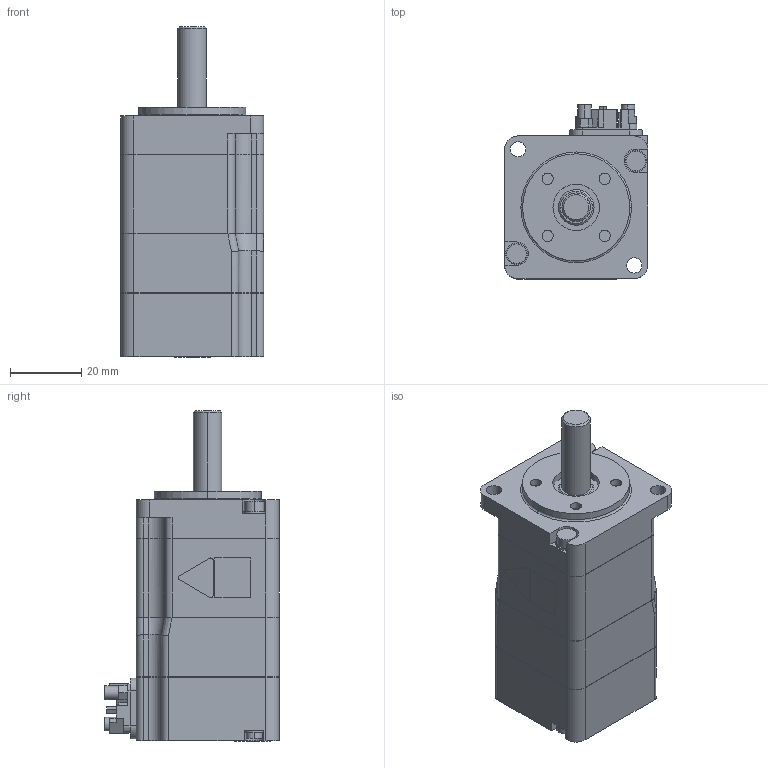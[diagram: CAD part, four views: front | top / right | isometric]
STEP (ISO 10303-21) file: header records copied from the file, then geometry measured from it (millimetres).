
FILE_DESCRIPTION (( 'STEP AP203' ), '1' );
FILE_NAME ('sgmxj_01aua21a1.STEP', '2021-01-13T07:44:19', ( '' ), ( '' ), 'SwSTEP 2.0', 'SolidWorks 2016', '' );
FILE_SCHEMA (( 'CONFIG_CONTROL_DESIGN' ));
Length unit declared in the file: millimetre
Products named in the file (1): sgmxj_01aua21a1
Bounding box: 40.1 x 48.8 x 92.6 mm (x, y, z)
Volume: 103747.1 mm3; surface area: 16764.3 mm2
Topology: 1 solids, 1 shells, 339 faces, 893 edges, 593 vertices
Faces by surface type: plane 198, cylinder 124, bspline 11, cone 4, torus 2
Entity records: 10823 total; most frequent: CARTESIAN_POINT 2200, ORIENTED_EDGE 1786, DIRECTION 1763, EDGE_CURVE 893, VECTOR 601, LINE 601, VERTEX_POINT 593, AXIS2_PLACEMENT_3D 581
